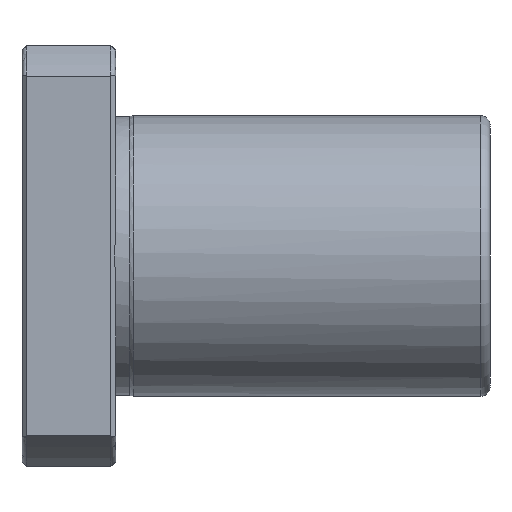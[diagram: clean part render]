
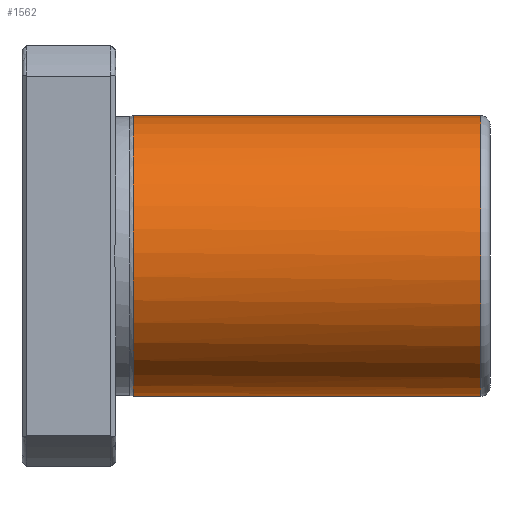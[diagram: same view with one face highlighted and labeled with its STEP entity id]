
A CAD part, left-side view. The second image highlights one B-rep face of the part: STEP entity #1562.
In plain terms, the highlighted cylindrical face has radius 15 mm (diameter 30 mm), a full revolution.
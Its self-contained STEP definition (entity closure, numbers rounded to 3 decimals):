
#53=CYLINDRICAL_SURFACE('',#1682,15.);
#104=LINE('',#2123,#138);
#106=LINE('',#2127,#140);
#138=VECTOR('',#1793,1000.);
#140=VECTOR('',#1795,1000.);
#264=ORIENTED_EDGE('',*,*,#451,.T.);
#265=ORIENTED_EDGE('',*,*,#526,.T.);
#266=ORIENTED_EDGE('',*,*,#453,.T.);
#267=ORIENTED_EDGE('',*,*,#527,.F.);
#268=ORIENTED_EDGE('',*,*,#528,.T.);
#451=EDGE_CURVE('',#588,#586,#104,.T.);
#453=EDGE_CURVE('',#590,#589,#106,.F.);
#526=EDGE_CURVE('',#586,#590,#715,.T.);
#527=EDGE_CURVE('',#588,#589,#716,.F.);
#528=EDGE_CURVE('',#648,#648,#717,.T.);
#586=VERTEX_POINT('',#2121);
#588=VERTEX_POINT('',#2124);
#589=VERTEX_POINT('',#2126);
#590=VERTEX_POINT('',#2128);
#648=VERTEX_POINT('',#3772);
#715=CIRCLE('',#1683,15.);
#716=CIRCLE('',#1684,15.);
#717=CIRCLE('',#1685,15.);
#776=EDGE_LOOP('',(#264,#265,#266,#267));
#777=EDGE_LOOP('',(#268));
#903=FACE_BOUND('',#776,.T.);
#904=FACE_BOUND('',#777,.T.);
#1562=ADVANCED_FACE('',(#903,#904),#53,.T.);
#1682=AXIS2_PLACEMENT_3D('',#3768,#1919,#1920);
#1683=AXIS2_PLACEMENT_3D('',#3769,#1921,#1922);
#1684=AXIS2_PLACEMENT_3D('',#3770,#1923,#1924);
#1685=AXIS2_PLACEMENT_3D('',#3771,#1925,#1926);
#1793=DIRECTION('',(0.,1.,0.));
#1795=DIRECTION('',(0.,1.,0.));
#1919=DIRECTION('',(0.,1.,0.));
#1920=DIRECTION('',(0.,0.,1.));
#1921=DIRECTION('',(0.,-1.,0.));
#1922=DIRECTION('',(0.,0.,-1.));
#1923=DIRECTION('',(0.,-1.,0.));
#1924=DIRECTION('',(0.,0.,-1.));
#1925=DIRECTION('',(0.,1.,0.));
#1926=DIRECTION('',(0.,0.,1.));
#2121=CARTESIAN_POINT('',(9.,-11.9,12.));
#2123=CARTESIAN_POINT('',(9.,-50.,12.));
#2124=CARTESIAN_POINT('',(9.,-43.5,12.));
#2126=CARTESIAN_POINT('',(9.,-43.5,-12.));
#2127=CARTESIAN_POINT('',(9.,-50.,-12.));
#2128=CARTESIAN_POINT('',(9.,-11.9,-12.));
#3768=CARTESIAN_POINT('',(0.,-50.,0.));
#3769=CARTESIAN_POINT('',(0.,-11.9,0.));
#3770=CARTESIAN_POINT('',(0.,-43.5,0.));
#3771=CARTESIAN_POINT('',(0.,-49.,0.));
#3772=CARTESIAN_POINT('',(0.,-49.,15.));
